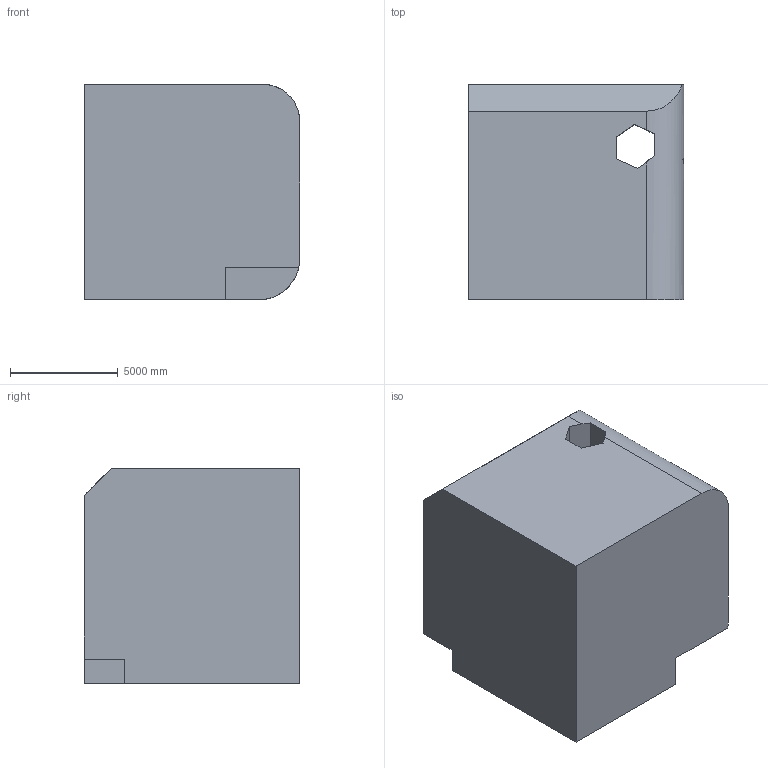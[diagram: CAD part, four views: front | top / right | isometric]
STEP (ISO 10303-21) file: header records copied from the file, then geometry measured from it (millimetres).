
FILE_DESCRIPTION (( 'STEP AP203' ), '1' );
FILE_NAME ('754.STEP', '2022-08-04T15:47:58', ( 'user' ), ( '' ), 'SwSTEP 2.0', 'SolidWorks 2021', '' );
FILE_SCHEMA (( 'CONFIG_CONTROL_DESIGN' ));
Length unit declared in the file: centimetre
Products named in the file (1): 754
Bounding box: 10000 x 10000 x 10000 mm (x, y, z)
Volume: 923959099125.6 mm3; surface area: 655306515.2 mm2
Topology: 1 solids, 1 shells, 32 faces, 102 edges, 68 vertices
Faces by surface type: plane 28, cylinder 4
Entity records: 1200 total; most frequent: CARTESIAN_POINT 224, ORIENTED_EDGE 204, DIRECTION 170, EDGE_CURVE 102, LINE 86, VECTOR 86, VERTEX_POINT 68, AXIS2_PLACEMENT_3D 42
